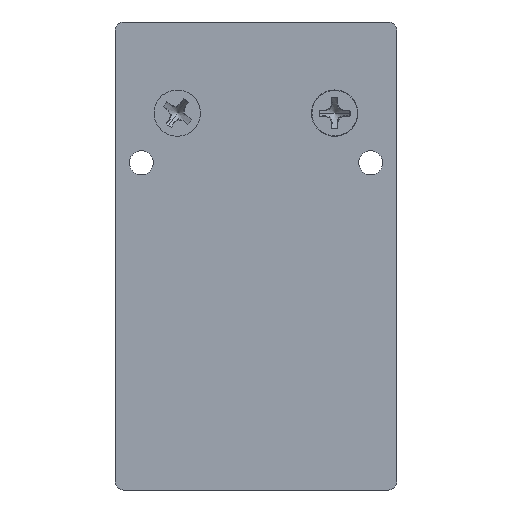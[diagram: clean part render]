
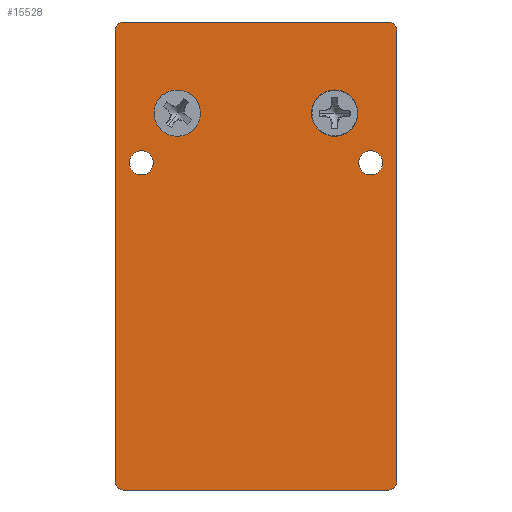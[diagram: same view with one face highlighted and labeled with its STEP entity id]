
A CAD part, front view. The second image highlights one B-rep face of the part: STEP entity #15528.
In plain terms, the highlighted planar face has unit normal (0, -1, 0).
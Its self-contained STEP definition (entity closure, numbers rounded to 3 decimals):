
#200 = CARTESIAN_POINT ( 'NONE',  ( 17., 0., -28.25 ) ) ;
#901 = VERTEX_POINT ( 'NONE', #5051 ) ;
#972 = VERTEX_POINT ( 'NONE', #46519 ) ;
#1533 = CIRCLE ( 'NONE', #48483, 1.45 ) ;
#1534 = DIRECTION ( 'NONE',  ( 0., 0., -1. ) ) ;
#1576 = VECTOR ( 'NONE', #16220, 1000. ) ;
#1705 = FACE_BOUND ( 'NONE', #28579, .T. ) ;
#1722 = EDGE_CURVE ( 'NONE', #39122, #972, #29283, .T. ) ;
#1955 = DIRECTION ( 'NONE',  ( 0., 0., -1. ) ) ;
#2733 = DIRECTION ( 'NONE',  ( 0., -1., 0. ) ) ;
#2855 = DIRECTION ( 'NONE',  ( 0., 0., -1. ) ) ;
#3801 = LINE ( 'NONE', #20326, #38703 ) ;
#3950 = EDGE_CURVE ( 'NONE', #13680, #42230, #3801, .T. ) ;
#4483 = CARTESIAN_POINT ( 'NONE',  ( -17., 0., -28.25 ) ) ;
#4661 = CARTESIAN_POINT ( 'NONE',  ( -16., 0., 28.25 ) ) ;
#5024 = CARTESIAN_POINT ( 'NONE',  ( 9.5, 0., 17.25 ) ) ;
#5039 = DIRECTION ( 'NONE',  ( 0., 0., -1. ) ) ;
#5051 = CARTESIAN_POINT ( 'NONE',  ( -13.84, 0., 12.7 ) ) ;
#5085 = DIRECTION ( 'NONE',  ( 1., 0., 0. ) ) ;
#6133 = CIRCLE ( 'NONE', #15340, 2.75 ) ;
#6169 = CARTESIAN_POINT ( 'NONE',  ( 0., 0., 0. ) ) ;
#6192 = AXIS2_PLACEMENT_3D ( 'NONE', #17289, #33565, #1534 ) ;
#6422 = DIRECTION ( 'NONE',  ( 0., 0., 1. ) ) ;
#6668 = VERTEX_POINT ( 'NONE', #47369 ) ;
#6915 = AXIS2_PLACEMENT_3D ( 'NONE', #8894, #16263, #28344 ) ;
#7986 = DIRECTION ( 'NONE',  ( 0., 0., 1. ) ) ;
#8296 = DIRECTION ( 'NONE',  ( 0., 0., -1. ) ) ;
#8894 = CARTESIAN_POINT ( 'NONE',  ( -16., 0., 27.25 ) ) ;
#9042 = FACE_OUTER_BOUND ( 'NONE', #15988, .T. ) ;
#9311 = PLANE ( 'NONE',  #36843 ) ;
#9417 = ORIENTED_EDGE ( 'NONE', *, *, #1722, .F. ) ;
#10303 = EDGE_LOOP ( 'NONE', ( #9417, #15530 ) ) ;
#10704 = AXIS2_PLACEMENT_3D ( 'NONE', #35027, #2733, #1955 ) ;
#10709 = CIRCLE ( 'NONE', #15718, 1.45 ) ;
#11232 = EDGE_CURVE ( 'NONE', #12330, #901, #10709, .T. ) ;
#11698 = DIRECTION ( 'NONE',  ( 0., -1., 0. ) ) ;
#11699 = AXIS2_PLACEMENT_3D ( 'NONE', #22831, #50912, #46951 ) ;
#12043 = CIRCLE ( 'NONE', #6192, 1.45 ) ;
#12330 = VERTEX_POINT ( 'NONE', #43168 ) ;
#12769 = VERTEX_POINT ( 'NONE', #14722 ) ;
#13289 = ORIENTED_EDGE ( 'NONE', *, *, #25920, .F. ) ;
#13677 = CIRCLE ( 'NONE', #51457, 2.75 ) ;
#13680 = VERTEX_POINT ( 'NONE', #49661 ) ;
#13682 = DIRECTION ( 'NONE',  ( 0., 0., 1. ) ) ;
#14722 = CARTESIAN_POINT ( 'NONE',  ( 17., 0., -27.25 ) ) ;
#15340 = AXIS2_PLACEMENT_3D ( 'NONE', #5024, #28933, #44918 ) ;
#15528 = ADVANCED_FACE ( 'NONE', ( #1705, #41609, #17724, #41868, #9042 ), #9311, .F. ) ;
#15530 = ORIENTED_EDGE ( 'NONE', *, *, #27030, .F. ) ;
#15718 = AXIS2_PLACEMENT_3D ( 'NONE', #48170, #11698, #44220 ) ;
#15988 = EDGE_LOOP ( 'NONE', ( #36148, #17406, #32125, #30171, #41136, #37892, #19754, #47143 ) ) ;
#16190 = CIRCLE ( 'NONE', #25425, 1. ) ;
#16220 = DIRECTION ( 'NONE',  ( 0., 0., -1. ) ) ;
#16263 = DIRECTION ( 'NONE',  ( 0., -1., 0. ) ) ;
#16777 = VERTEX_POINT ( 'NONE', #23922 ) ;
#16848 = VERTEX_POINT ( 'NONE', #48320 ) ;
#17289 = CARTESIAN_POINT ( 'NONE',  ( 13.84, 0., 11.25 ) ) ;
#17406 = ORIENTED_EDGE ( 'NONE', *, *, #20089, .T. ) ;
#17700 = CARTESIAN_POINT ( 'NONE',  ( -17., 0., 28.25 ) ) ;
#17724 = FACE_BOUND ( 'NONE', #43421, .T. ) ;
#18169 = DIRECTION ( 'NONE',  ( 0., -1., 0. ) ) ;
#19754 = ORIENTED_EDGE ( 'NONE', *, *, #42931, .F. ) ;
#20089 = EDGE_CURVE ( 'NONE', #48191, #42230, #31255, .T. ) ;
#20326 = CARTESIAN_POINT ( 'NONE',  ( -17., 0., -28.25 ) ) ;
#22178 = CARTESIAN_POINT ( 'NONE',  ( -16., 0., -27.25 ) ) ;
#22557 = CARTESIAN_POINT ( 'NONE',  ( 16., 0., -28.25 ) ) ;
#22758 = ORIENTED_EDGE ( 'NONE', *, *, #29475, .F. ) ;
#22831 = CARTESIAN_POINT ( 'NONE',  ( 16., 0., -27.25 ) ) ;
#23055 = EDGE_LOOP ( 'NONE', ( #50404, #41865 ) ) ;
#23922 = CARTESIAN_POINT ( 'NONE',  ( 13.84, 0., 12.7 ) ) ;
#25425 = AXIS2_PLACEMENT_3D ( 'NONE', #29461, #45444, #13682 ) ;
#25606 = EDGE_CURVE ( 'NONE', #48191, #25747, #46022, .T. ) ;
#25695 = CARTESIAN_POINT ( 'NONE',  ( 9.5, 0., 17.25 ) ) ;
#25747 = VERTEX_POINT ( 'NONE', #38705 ) ;
#25900 = EDGE_CURVE ( 'NONE', #45564, #25747, #16190, .T. ) ;
#25920 = EDGE_CURVE ( 'NONE', #16848, #38764, #6133, .T. ) ;
#27030 = EDGE_CURVE ( 'NONE', #972, #39122, #13677, .T. ) ;
#27834 = VECTOR ( 'NONE', #28907, 1000. ) ;
#28344 = DIRECTION ( 'NONE',  ( 0., 0., 1. ) ) ;
#28579 = EDGE_LOOP ( 'NONE', ( #44639, #22758 ) ) ;
#28907 = DIRECTION ( 'NONE',  ( -1., 0., 0. ) ) ;
#28933 = DIRECTION ( 'NONE',  ( 0., -1., 0. ) ) ;
#29283 = CIRCLE ( 'NONE', #38518, 2.75 ) ;
#29461 = CARTESIAN_POINT ( 'NONE',  ( 16., 0., 27.25 ) ) ;
#29475 = EDGE_CURVE ( 'NONE', #16777, #6668, #12043, .T. ) ;
#29645 = AXIS2_PLACEMENT_3D ( 'NONE', #25695, #50113, #2855 ) ;
#30171 = ORIENTED_EDGE ( 'NONE', *, *, #41034, .T. ) ;
#30831 = CIRCLE ( 'NONE', #45899, 1. ) ;
#31255 = CIRCLE ( 'NONE', #6915, 1. ) ;
#31342 = CIRCLE ( 'NONE', #29645, 2.75 ) ;
#31664 = DIRECTION ( 'NONE',  ( 0., 0., -1. ) ) ;
#31745 = CARTESIAN_POINT ( 'NONE',  ( -9.5, 0., 14.5 ) ) ;
#32125 = ORIENTED_EDGE ( 'NONE', *, *, #3950, .F. ) ;
#32678 = ORIENTED_EDGE ( 'NONE', *, *, #50932, .F. ) ;
#33565 = DIRECTION ( 'NONE',  ( 0., -1., 0. ) ) ;
#33776 = EDGE_CURVE ( 'NONE', #35566, #12769, #34360, .T. ) ;
#34360 = CIRCLE ( 'NONE', #11699, 1. ) ;
#35027 = CARTESIAN_POINT ( 'NONE',  ( 13.84, 0., 11.25 ) ) ;
#35183 = CARTESIAN_POINT ( 'NONE',  ( 17., 0., 27.25 ) ) ;
#35566 = VERTEX_POINT ( 'NONE', #22557 ) ;
#35752 = LINE ( 'NONE', #4483, #27834 ) ;
#36114 = CARTESIAN_POINT ( 'NONE',  ( -13.84, 0., 11.25 ) ) ;
#36148 = ORIENTED_EDGE ( 'NONE', *, *, #25606, .F. ) ;
#36191 = LINE ( 'NONE', #200, #1576 ) ;
#36654 = CIRCLE ( 'NONE', #10704, 1.45 ) ;
#36843 = AXIS2_PLACEMENT_3D ( 'NONE', #6169, #38213, #6422 ) ;
#37381 = DIRECTION ( 'NONE',  ( 0., 0., 1. ) ) ;
#37385 = EDGE_CURVE ( 'NONE', #6668, #16777, #36654, .T. ) ;
#37650 = DIRECTION ( 'NONE',  ( 0., -1., 0. ) ) ;
#37892 = ORIENTED_EDGE ( 'NONE', *, *, #33776, .T. ) ;
#38213 = DIRECTION ( 'NONE',  ( 0., 1., 0. ) ) ;
#38518 = AXIS2_PLACEMENT_3D ( 'NONE', #44003, #48728, #8296 ) ;
#38703 = VECTOR ( 'NONE', #7986, 1000. ) ;
#38705 = CARTESIAN_POINT ( 'NONE',  ( 16., 0., 28.25 ) ) ;
#38764 = VERTEX_POINT ( 'NONE', #47289 ) ;
#39122 = VERTEX_POINT ( 'NONE', #31745 ) ;
#41021 = CARTESIAN_POINT ( 'NONE',  ( -9.5, 0., 17.25 ) ) ;
#41034 = EDGE_CURVE ( 'NONE', #13680, #41876, #30831, .T. ) ;
#41136 = ORIENTED_EDGE ( 'NONE', *, *, #49231, .F. ) ;
#41609 = FACE_BOUND ( 'NONE', #23055, .T. ) ;
#41865 = ORIENTED_EDGE ( 'NONE', *, *, #42219, .F. ) ;
#41868 = FACE_BOUND ( 'NONE', #10303, .T. ) ;
#41876 = VERTEX_POINT ( 'NONE', #50126 ) ;
#42219 = EDGE_CURVE ( 'NONE', #901, #12330, #1533, .T. ) ;
#42230 = VERTEX_POINT ( 'NONE', #51116 ) ;
#42931 = EDGE_CURVE ( 'NONE', #45564, #12769, #36191, .T. ) ;
#43168 = CARTESIAN_POINT ( 'NONE',  ( -13.84, 0., 9.8 ) ) ;
#43421 = EDGE_LOOP ( 'NONE', ( #32678, #13289 ) ) ;
#44003 = CARTESIAN_POINT ( 'NONE',  ( -9.5, 0., 17.25 ) ) ;
#44220 = DIRECTION ( 'NONE',  ( 0., 0., -1. ) ) ;
#44633 = VECTOR ( 'NONE', #5085, 1000. ) ;
#44639 = ORIENTED_EDGE ( 'NONE', *, *, #37385, .F. ) ;
#44918 = DIRECTION ( 'NONE',  ( 0., 0., -1. ) ) ;
#45444 = DIRECTION ( 'NONE',  ( 0., -1., 0. ) ) ;
#45564 = VERTEX_POINT ( 'NONE', #35183 ) ;
#45899 = AXIS2_PLACEMENT_3D ( 'NONE', #22178, #37650, #37381 ) ;
#46022 = LINE ( 'NONE', #17700, #44633 ) ;
#46519 = CARTESIAN_POINT ( 'NONE',  ( -9.5, 0., 20. ) ) ;
#46951 = DIRECTION ( 'NONE',  ( 0., 0., 1. ) ) ;
#47143 = ORIENTED_EDGE ( 'NONE', *, *, #25900, .T. ) ;
#47149 = DIRECTION ( 'NONE',  ( 0., -1., 0. ) ) ;
#47289 = CARTESIAN_POINT ( 'NONE',  ( 9.5, 0., 14.5 ) ) ;
#47369 = CARTESIAN_POINT ( 'NONE',  ( 13.84, 0., 9.8 ) ) ;
#48170 = CARTESIAN_POINT ( 'NONE',  ( -13.84, 0., 11.25 ) ) ;
#48191 = VERTEX_POINT ( 'NONE', #4661 ) ;
#48320 = CARTESIAN_POINT ( 'NONE',  ( 9.5, 0., 20. ) ) ;
#48483 = AXIS2_PLACEMENT_3D ( 'NONE', #36114, #47149, #31664 ) ;
#48728 = DIRECTION ( 'NONE',  ( 0., -1., 0. ) ) ;
#49231 = EDGE_CURVE ( 'NONE', #35566, #41876, #35752, .T. ) ;
#49661 = CARTESIAN_POINT ( 'NONE',  ( -17., 0., -27.25 ) ) ;
#50113 = DIRECTION ( 'NONE',  ( 0., -1., 0. ) ) ;
#50126 = CARTESIAN_POINT ( 'NONE',  ( -16., 0., -28.25 ) ) ;
#50404 = ORIENTED_EDGE ( 'NONE', *, *, #11232, .F. ) ;
#50912 = DIRECTION ( 'NONE',  ( 0., -1., 0. ) ) ;
#50932 = EDGE_CURVE ( 'NONE', #38764, #16848, #31342, .T. ) ;
#51116 = CARTESIAN_POINT ( 'NONE',  ( -17., 0., 27.25 ) ) ;
#51457 = AXIS2_PLACEMENT_3D ( 'NONE', #41021, #18169, #5039 ) ;
